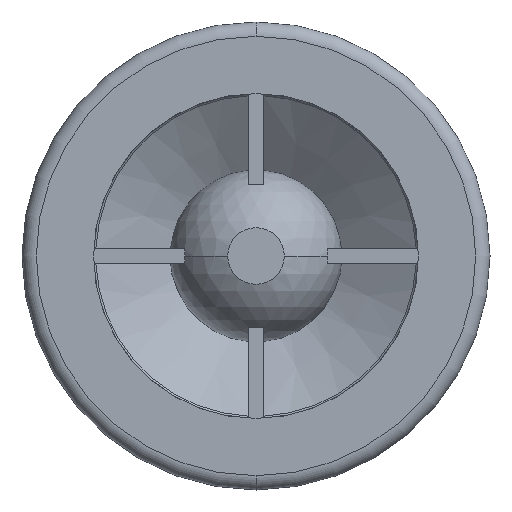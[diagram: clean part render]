
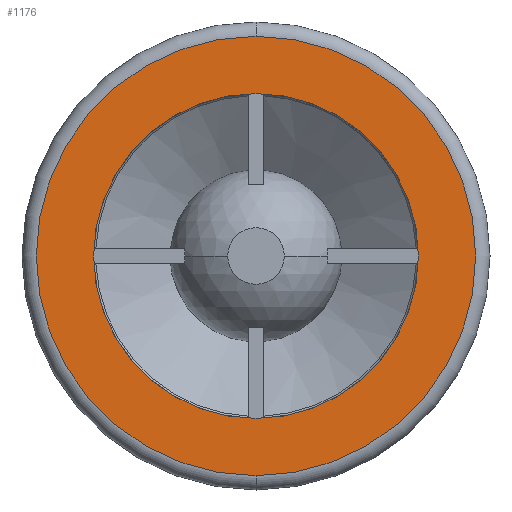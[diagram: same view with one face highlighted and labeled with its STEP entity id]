
A CAD part, front view. The second image highlights one B-rep face of the part: STEP entity #1176.
In plain terms, the highlighted planar face has unit normal (0, -1, 0).
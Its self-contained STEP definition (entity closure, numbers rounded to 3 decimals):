
#285 = CARTESIAN_POINT ( 'NONE',  ( 0., 0., 23. ) ) ;
#343 = DIRECTION ( 'NONE',  ( 0., 0., 1. ) ) ;
#344 = DIRECTION ( 'NONE',  ( 0., -1., 0. ) ) ;
#345 = CARTESIAN_POINT ( 'NONE',  ( 0., 0., 0. ) ) ;
#346 = AXIS2_PLACEMENT_3D ( 'NONE', #345, #344, #343 ) ;
#347 = CIRCLE ( 'NONE', #346, 23. ) ;
#354 = CARTESIAN_POINT ( 'NONE',  ( 0., 0., -23. ) ) ;
#700 = CARTESIAN_POINT ( 'NONE',  ( 0., 0., -17. ) ) ;
#701 = DIRECTION ( 'NONE',  ( 0., 0., -1. ) ) ;
#702 = DIRECTION ( 'NONE',  ( 0., -1., 0. ) ) ;
#703 = CARTESIAN_POINT ( 'NONE',  ( 0., 0., 0. ) ) ;
#704 = AXIS2_PLACEMENT_3D ( 'NONE', #703, #702, #701 ) ;
#705 = CIRCLE ( 'NONE', #704, 17. ) ;
#832 = CARTESIAN_POINT ( 'NONE',  ( 0., 0., 17. ) ) ;
#1048 = EDGE_LOOP ( 'NONE', ( #1244, #1246 ) ) ;
#1072 = DIRECTION ( 'NONE',  ( 0., 0., -1. ) ) ;
#1073 = DIRECTION ( 'NONE',  ( 0., -1., 0. ) ) ;
#1074 = CARTESIAN_POINT ( 'NONE',  ( 0., 0., 0. ) ) ;
#1075 = AXIS2_PLACEMENT_3D ( 'NONE', #1074, #1073, #1072 ) ;
#1076 = CIRCLE ( 'NONE', #1075, 17. ) ;
#1176 = ADVANCED_FACE ( 'NONE', ( #1427, #1426 ), #1489, .F. ) ;
#1193 = ORIENTED_EDGE ( 'NONE', *, *, #2307, .F. ) ;
#1200 = ORIENTED_EDGE ( 'NONE', *, *, #2447, .F. ) ;
#1244 = ORIENTED_EDGE ( 'NONE', *, *, #1245, .T. ) ;
#1245 = EDGE_CURVE ( 'NONE', #2055, #2106, #2922, .T. ) ;
#1246 = ORIENTED_EDGE ( 'NONE', *, *, #2111, .T. ) ;
#1247 = EDGE_LOOP ( 'NONE', ( #1200, #1193 ) ) ;
#1426 = FACE_BOUND ( 'NONE', #1247, .T. ) ;
#1427 = FACE_OUTER_BOUND ( 'NONE', #1048, .T. ) ;
#1463 = CARTESIAN_POINT ( 'NONE',  ( -17., 0., 0. ) ) ;
#1464 = AXIS2_PLACEMENT_3D ( 'NONE', #1463, #1492, #1491 ) ;
#1489 = PLANE ( 'NONE',  #1464 ) ;
#1491 = DIRECTION ( 'NONE',  ( 0., 0., 1. ) ) ;
#1492 = DIRECTION ( 'NONE',  ( 0., 1., 0. ) ) ;
#2055 = VERTEX_POINT ( 'NONE', #285 ) ;
#2106 = VERTEX_POINT ( 'NONE', #354 ) ;
#2111 = EDGE_CURVE ( 'NONE', #2106, #2055, #347, .T. ) ;
#2307 = EDGE_CURVE ( 'NONE', #2341, #2308, #705, .T. ) ;
#2308 = VERTEX_POINT ( 'NONE', #700 ) ;
#2341 = VERTEX_POINT ( 'NONE', #832 ) ;
#2447 = EDGE_CURVE ( 'NONE', #2308, #2341, #1076, .T. ) ;
#2918 = DIRECTION ( 'NONE',  ( 0., 0., 1. ) ) ;
#2919 = DIRECTION ( 'NONE',  ( 0., -1., 0. ) ) ;
#2920 = CARTESIAN_POINT ( 'NONE',  ( 0., 0., 0. ) ) ;
#2921 = AXIS2_PLACEMENT_3D ( 'NONE', #2920, #2919, #2918 ) ;
#2922 = CIRCLE ( 'NONE', #2921, 23. ) ;
